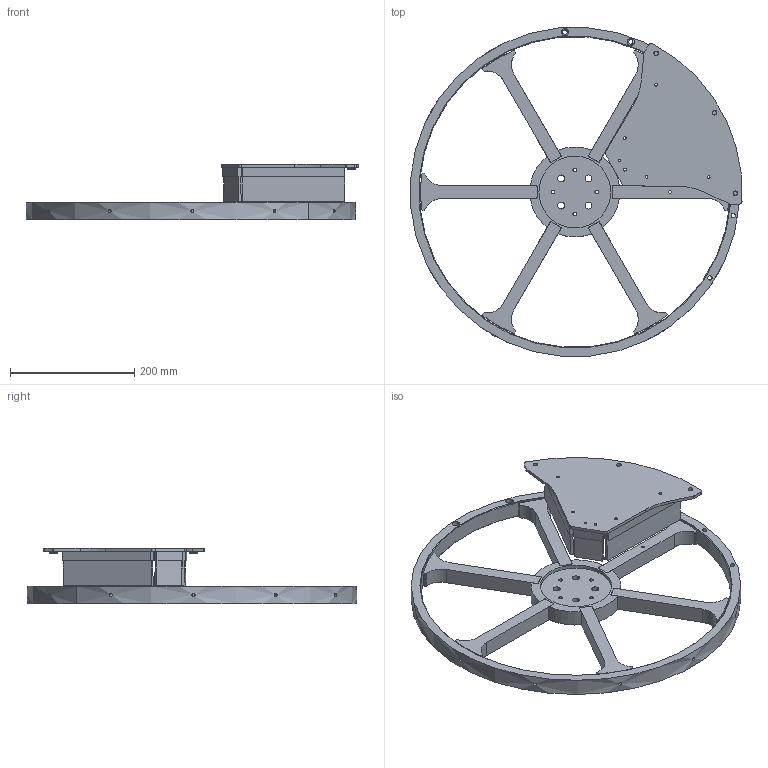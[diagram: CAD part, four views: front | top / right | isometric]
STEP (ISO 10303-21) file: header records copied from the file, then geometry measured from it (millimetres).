
FILE_DESCRIPTION (( 'STEP AP214' ), '1' );
FILE_NAME ('GM000541.STEP', '2021-09-17T08:30:25', ( '' ), ( '' ), 'SwSTEP 2.0', 'SolidWorks 2020', '' );
FILE_SCHEMA (( 'AUTOMOTIVE_DESIGN' ));
Length unit declared in the file: millimetre
Products named in the file (9): SM000065; CM000064; PD001761; SM000070; PD002152; PD001072; GM000541; PD002368; PD002130
Assembly tree (18 placements, depth 2):
  GM000541
    CM000064  x6
    PD002130
    PD002152
    PD001072
    SM000070
    PD001761  x5
    PD002368
    SM000065  x2
Bounding box: 534.83 x 531 x 89.02 mm (x, y, z)
Volume: 1901621.3 mm3; surface area: 457038.2 mm2
Topology: 18 solids, 18 shells, 525 faces, 1409 edges, 938 vertices
Faces by surface type: plane 289, cylinder 232, cone 4
Entity records: 12095 total; most frequent: CARTESIAN_POINT 2657, DIRECTION 1937, ORIENTED_EDGE 1834, EDGE_CURVE 917, AXIS2_PLACEMENT_3D 690, VERTEX_POINT 610, VECTOR 557, LINE 557
